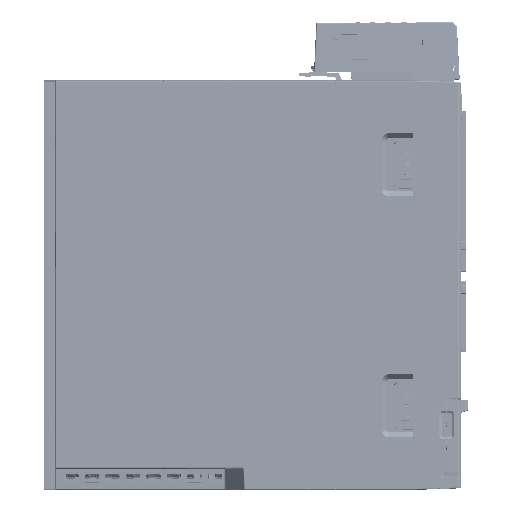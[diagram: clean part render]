
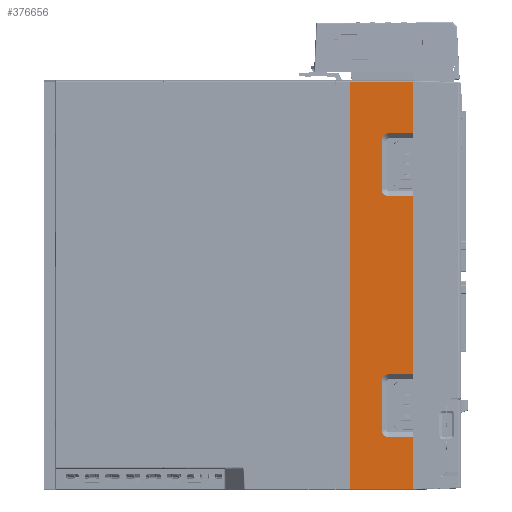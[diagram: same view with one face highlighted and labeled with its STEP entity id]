
A CAD part, left-side view. The second image highlights one B-rep face of the part: STEP entity #376656.
In plain terms, the highlighted planar face has unit normal (-1, 0, 0).
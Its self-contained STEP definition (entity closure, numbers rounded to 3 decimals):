
#353446=DIRECTION('',(0.,0.,1.));
#353447=VECTOR('',#353446,21.4);
#353448=CARTESIAN_POINT('',(-27.5,-66.528,63.1));
#353449=LINE('',#353448,#353447);
#353745=DIRECTION('',(0.,0.,1.));
#353746=VECTOR('',#353745,73.8);
#353747=CARTESIAN_POINT('',(-27.5,-66.528,-36.9));
#353748=LINE('',#353747,#353746);
#353843=CARTESIAN_POINT('',(-27.5,-66.528,-84.5));
#353845=DIRECTION('',(0.,0.,1.));
#353846=VECTOR('',#353845,21.4);
#353847=CARTESIAN_POINT('',(-27.5,-66.528,-84.5));
#353848=LINE('',#353847,#353846);
#353881=CARTESIAN_POINT('',(-27.5,-40.535,-84.5));
#353883=DIRECTION('',(0.,-1.,0.));
#353884=VECTOR('',#353883,25.992);
#353885=CARTESIAN_POINT('',(-27.5,-40.535,-84.5));
#353886=LINE('',#353885,#353884);
#356006=DIRECTION('',(0.,0.,-1.));
#356007=VECTOR('',#356006,169.);
#356008=CARTESIAN_POINT('',(-27.5,-40.535,84.5));
#356009=LINE('',#356008,#356007);
#356026=DIRECTION('',(0.,1.,0.));
#356027=VECTOR('',#356026,25.992);
#356028=CARTESIAN_POINT('',(-27.5,-66.528,84.5));
#356029=LINE('',#356028,#356027);
#356030=CARTESIAN_POINT('',(-27.5,-40.535,84.5));
#356040=CARTESIAN_POINT('',(-27.5,-56.7,-40.));
#356041=DIRECTION('',(-1.,0.,0.));
#356042=DIRECTION('',(0.,0.,1.));
#356043=AXIS2_PLACEMENT_3D('',#356040,#356041,#356042);
#356045=DIRECTION('',(0.,0.,-1.));
#356046=VECTOR('',#356045,20.);
#356047=CARTESIAN_POINT('',(-27.5,-53.6,-40.));
#356048=LINE('',#356047,#356046);
#356049=CARTESIAN_POINT('',(-27.5,-56.7,-60.));
#356050=DIRECTION('',(-1.,0.,0.));
#356051=DIRECTION('',(0.,1.,0.));
#356052=AXIS2_PLACEMENT_3D('',#356049,#356050,#356051);
#356054=DIRECTION('',(0.,-1.,0.));
#356055=VECTOR('',#356054,9.828);
#356056=CARTESIAN_POINT('',(-27.5,-56.7,-63.1));
#356057=LINE('',#356056,#356055);
#356058=DIRECTION('',(0.,1.,0.));
#356059=VECTOR('',#356058,9.828);
#356060=CARTESIAN_POINT('',(-27.5,-66.528,63.1));
#356061=LINE('',#356060,#356059);
#356062=CARTESIAN_POINT('',(-27.5,-56.7,60.));
#356063=DIRECTION('',(-1.,0.,0.));
#356064=DIRECTION('',(0.,0.,1.));
#356065=AXIS2_PLACEMENT_3D('',#356062,#356063,#356064);
#356067=DIRECTION('',(0.,0.,-1.));
#356068=VECTOR('',#356067,20.);
#356069=CARTESIAN_POINT('',(-27.5,-53.6,60.));
#356070=LINE('',#356069,#356068);
#356071=CARTESIAN_POINT('',(-27.5,-56.7,40.));
#356072=DIRECTION('',(-1.,0.,0.));
#356073=DIRECTION('',(0.,1.,0.));
#356074=AXIS2_PLACEMENT_3D('',#356071,#356072,#356073);
#356076=DIRECTION('',(0.,-1.,0.));
#356077=VECTOR('',#356076,9.828);
#356078=CARTESIAN_POINT('',(-27.5,-56.7,36.9));
#356079=LINE('',#356078,#356077);
#356080=DIRECTION('',(0.,1.,0.));
#356081=VECTOR('',#356080,9.828);
#356082=CARTESIAN_POINT('',(-27.5,-66.528,-36.9));
#356083=LINE('',#356082,#356081);
#366547=CARTESIAN_POINT('',(-27.5,-66.528,63.1));
#366548=VERTEX_POINT('',#366547);
#366549=CARTESIAN_POINT('',(-27.5,-66.528,84.5));
#366550=VERTEX_POINT('',#366549);
#366642=CARTESIAN_POINT('',(-27.5,-66.528,-36.9));
#366643=VERTEX_POINT('',#366642);
#366644=CARTESIAN_POINT('',(-27.5,-66.528,36.9));
#366645=VERTEX_POINT('',#366644);
#366650=CARTESIAN_POINT('',(-27.5,-56.7,-36.9));
#366651=VERTEX_POINT('',#366650);
#366684=CARTESIAN_POINT('',(-27.5,-66.528,-63.1));
#366685=VERTEX_POINT('',#366684);
#366686=CARTESIAN_POINT('',(-27.5,-56.7,-63.1));
#366687=VERTEX_POINT('',#366686);
#366691=VERTEX_POINT('',#353843);
#366698=VERTEX_POINT('',#353881);
#367411=VERTEX_POINT('',#356030);
#367413=CARTESIAN_POINT('',(-27.5,-53.6,-40.));
#367414=VERTEX_POINT('',#367413);
#367415=CARTESIAN_POINT('',(-27.5,-53.6,-60.));
#367416=VERTEX_POINT('',#367415);
#367417=CARTESIAN_POINT('',(-27.5,-56.7,63.1));
#367418=VERTEX_POINT('',#367417);
#367419=CARTESIAN_POINT('',(-27.5,-53.6,60.));
#367420=VERTEX_POINT('',#367419);
#367421=CARTESIAN_POINT('',(-27.5,-53.6,40.));
#367422=VERTEX_POINT('',#367421);
#367423=CARTESIAN_POINT('',(-27.5,-56.7,36.9));
#367424=VERTEX_POINT('',#367423);
#376625=CARTESIAN_POINT('',(-27.5,-86.5,-85.));
#376626=DIRECTION('',(-1.,0.,0.));
#376627=DIRECTION('',(0.,0.,-1.));
#376628=AXIS2_PLACEMENT_3D('',#376625,#376626,#376627);
#376629=PLANE('',#376628);
#376631=ORIENTED_EDGE('',*,*,#376630,.T.);
#376633=ORIENTED_EDGE('',*,*,#376632,.T.);
#376635=ORIENTED_EDGE('',*,*,#376634,.T.);
#376636=ORIENTED_EDGE('',*,*,#374958,.T.);
#376637=ORIENTED_EDGE('',*,*,#374972,.F.);
#376638=ORIENTED_EDGE('',*,*,#375000,.F.);
#376639=ORIENTED_EDGE('',*,*,#376599,.F.);
#376640=ORIENTED_EDGE('',*,*,#376617,.F.);
#376641=ORIENTED_EDGE('',*,*,#374522,.F.);
#376643=ORIENTED_EDGE('',*,*,#376642,.T.);
#376645=ORIENTED_EDGE('',*,*,#376644,.T.);
#376647=ORIENTED_EDGE('',*,*,#376646,.T.);
#376649=ORIENTED_EDGE('',*,*,#376648,.T.);
#376651=ORIENTED_EDGE('',*,*,#376650,.T.);
#376652=ORIENTED_EDGE('',*,*,#374841,.F.);
#376653=ORIENTED_EDGE('',*,*,#374894,.T.);
#376654=EDGE_LOOP('',(#376631,#376633,#376635,#376636,#376637,#376638,#376639,
#376640,#376641,#376643,#376645,#376647,#376649,#376651,#376652,#376653));
#376655=FACE_OUTER_BOUND('',#376654,.F.);
#376656=ADVANCED_FACE('',(#376655),#376629,.T.);
#356044=CIRCLE('',#356043,3.1);
#356053=CIRCLE('',#356052,3.1);
#356066=CIRCLE('',#356065,3.1);
#356075=CIRCLE('',#356074,3.1);
#374522=EDGE_CURVE('',#366548,#366550,#353449,.T.);
#374841=EDGE_CURVE('',#366643,#366645,#353748,.T.);
#374894=EDGE_CURVE('',#366643,#366651,#356083,.T.);
#374958=EDGE_CURVE('',#366687,#366685,#356057,.T.);
#374972=EDGE_CURVE('',#366691,#366685,#353848,.T.);
#375000=EDGE_CURVE('',#366698,#366691,#353886,.T.);
#376599=EDGE_CURVE('',#367411,#366698,#356009,.T.);
#376617=EDGE_CURVE('',#366550,#367411,#356029,.T.);
#376630=EDGE_CURVE('',#366651,#367414,#356044,.T.);
#376632=EDGE_CURVE('',#367414,#367416,#356048,.T.);
#376634=EDGE_CURVE('',#367416,#366687,#356053,.T.);
#376642=EDGE_CURVE('',#366548,#367418,#356061,.T.);
#376644=EDGE_CURVE('',#367418,#367420,#356066,.T.);
#376646=EDGE_CURVE('',#367420,#367422,#356070,.T.);
#376648=EDGE_CURVE('',#367422,#367424,#356075,.T.);
#376650=EDGE_CURVE('',#367424,#366645,#356079,.T.);
